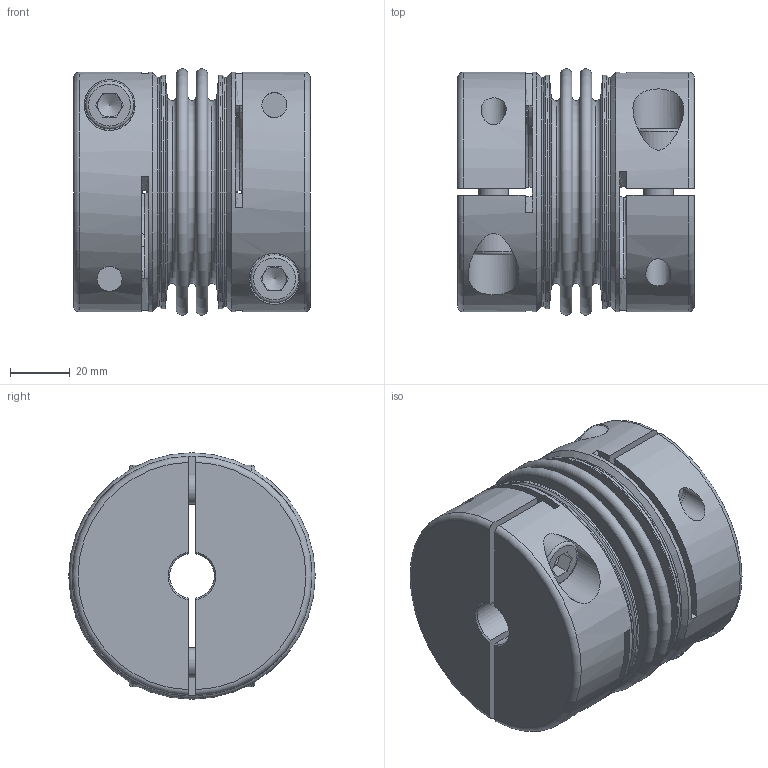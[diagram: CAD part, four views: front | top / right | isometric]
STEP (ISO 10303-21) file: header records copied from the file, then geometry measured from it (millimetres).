
FILE_DESCRIPTION(/* description */ ('Unknown','CAx-IF Rec.Pracs.---Representation and Presentation of Product Manufacturing Information (PMI)---4.0---2014-10-13','CAx-IF Rec.Pracs.---3D Tessellated Geometry---0.4---2014-09-14','2;1'),/* implementation_level */ '2;1');
FILE_NAME(/* name */ 'KG-HS 220-2W',/* time_stamp */ '2022-11-25T11:47:46+01:00',/* author */ ('Unknown'),/* organization */ ('Unknown'),/* preprocessor_version */ 'ST-DEVELOPER v18.102',/* originating_system */ 'Solid Edge',/* authorisation */ 'Unknown');
FILE_SCHEMA (('AP242_MANAGED_MODEL_BASED_3D_ENGINEERING_MIM_LF { 1 0 10303 442 1 1 4 }'));
Length unit declared in the file: millimetre
Products named in the file (1): 04824564
Bounding box: 79 x 82.23 x 82.23 mm (x, y, z)
Volume: 235268.3 mm3; surface area: 87331.1 mm2
Topology: 1 solids, 1 shells, 190 faces, 452 edges, 288 vertices
Faces by surface type: plane 98, cylinder 42, torus 30, cone 20
Full cylindrical faces by diameter (mm): 8.376 x8, 10 x4, 10.5 x4, 16 x4, 17 x4, 77.6 x2, 78 x2, 80 x2
Entity records: 7015 total; most frequent: CARTESIAN_POINT 1606, DIRECTION 864, ORIENTED_EDGE 728, EDGE_CURVE 364, AXIS2_PLACEMENT_3D 360, FACE_BOUND 292, EDGE_LOOP 288, VERTEX_POINT 268
